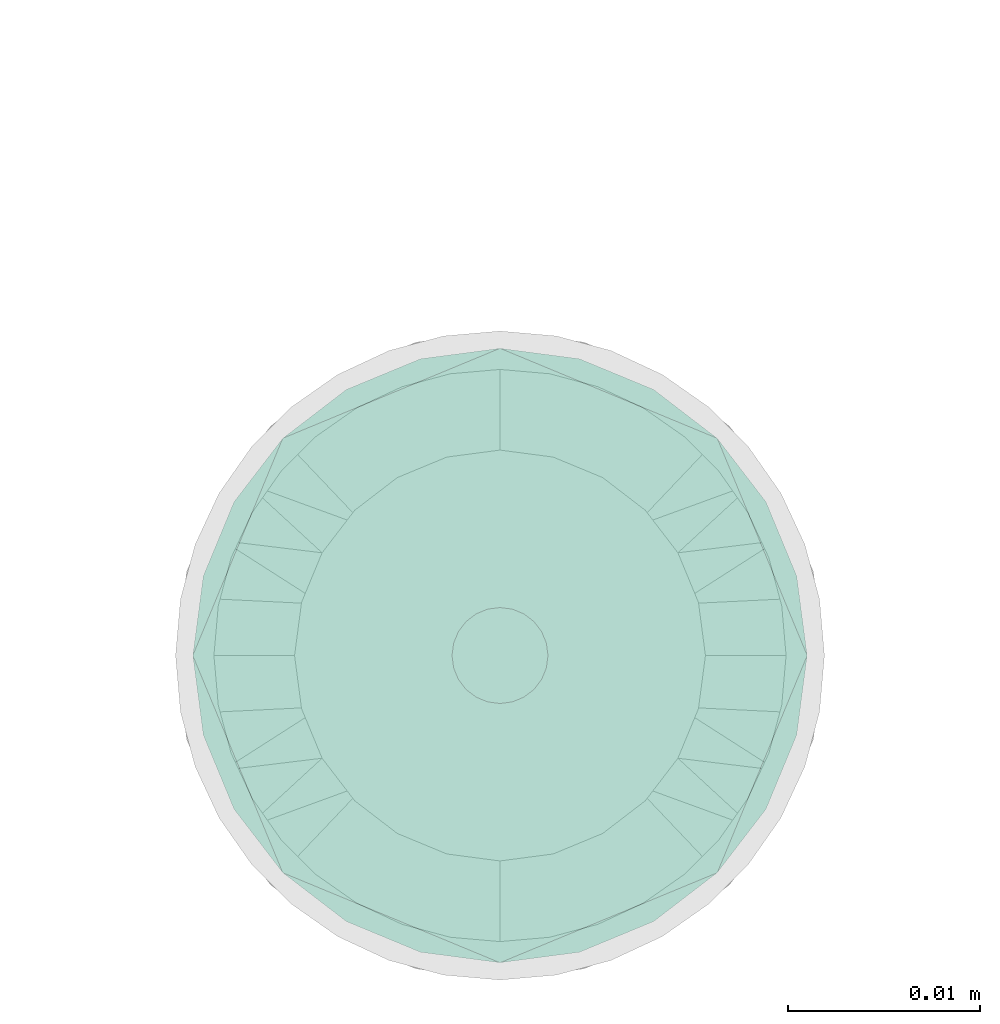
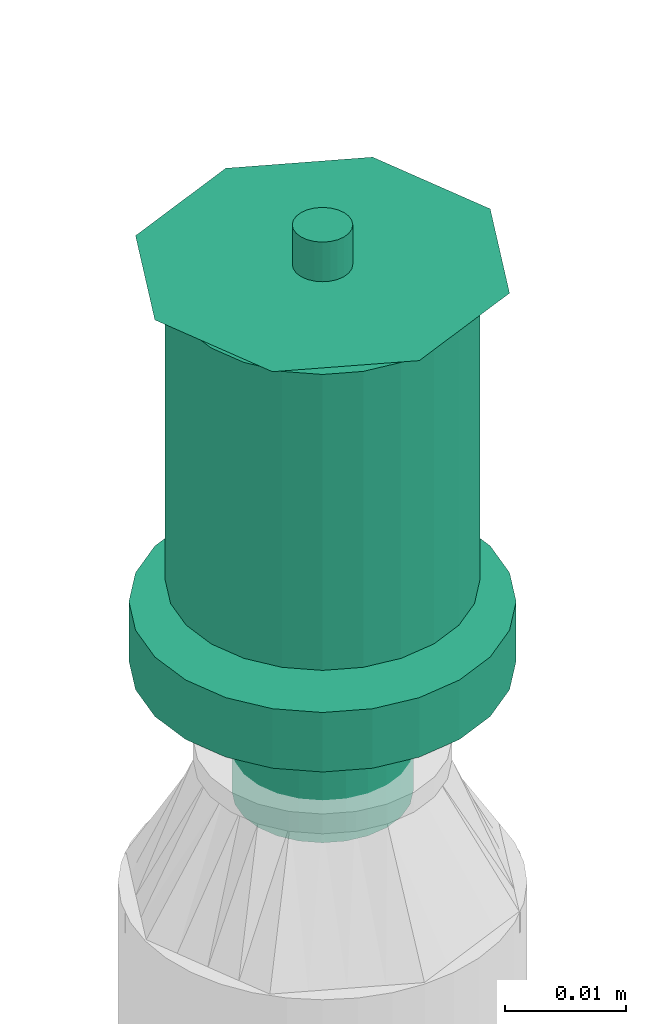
# One storey, part 10 of 44: 1 flow terminal.
"""IFC2X3 building model written with IfcOpenShell, lengths in millimetres."""

from ifc_helpers import new_model, entity, si_unit, converted_unit, derived_unit, direction, frame, origin_with_axes, place, context, subcontext, project, spatial, open_shell, surface_model, source, transform, mapped, type_object, element, save


model = new_model("IFC2X3")

# Units and contexts
model_context = context("Model", 3, precision=0.01, world=frame((0.0, 4.29681676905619e-09, 0.0)), true_north=direction((4.01073788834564e-13, 1.0)))
plan_context = context("Plan", 3, precision=0.01, world=frame((0.0, 4.29681676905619e-09, 0.0)), true_north=direction((4.01073788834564e-13, 1.0)))
body_context = subcontext(model_context, "Body", "Model", "MODEL_VIEW")
ifc_project = project(units=[converted_unit("PLANEANGLEUNIT", "DEGREE", entity("IfcPositiveLengthMeasure", 0.0174532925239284), si_unit("PLANEANGLEUNIT", "RADIAN"), dimensions=[0, 0, 0, 0, 0, 0, 0]), si_unit("AREAUNIT", "SQUARE_METRE"), si_unit("LENGTHUNIT", "METRE", prefix="MILLI"), si_unit("MASSUNIT", "GRAM", prefix="KILO"), si_unit("POWERUNIT", "WATT"), si_unit("PRESSUREUNIT", "PASCAL"), si_unit("FORCEUNIT", "NEWTON", prefix="KILO"), si_unit("ELECTRICVOLTAGEUNIT", "VOLT"), si_unit("ELECTRICCURRENTUNIT", "AMPERE"), si_unit("THERMODYNAMICTEMPERATUREUNIT", "DEGREE_CELSIUS"), si_unit("TIMEUNIT", "SECOND"), si_unit("VOLUMEUNIT", "CUBIC_METRE"), derived_unit("LINEARVELOCITYUNIT", [(si_unit("LENGTHUNIT", "METRE"), 1), (si_unit("TIMEUNIT", "SECOND"), -1)]), derived_unit("VOLUMETRICFLOWRATEUNIT", [(si_unit("VOLUMEUNIT", "CUBIC_METRE"), 1), (si_unit("TIMEUNIT", "SECOND"), -1)]), derived_unit("THERMALTRANSMITTANCEUNIT", [(si_unit("POWERUNIT", "WATT"), 1), (si_unit("THERMODYNAMICTEMPERATUREUNIT", "KELVIN"), -1), (si_unit("AREAUNIT", "SQUARE_METRE"), -1)]), derived_unit("SOUNDPRESSUREUNIT", [(si_unit("PRESSUREUNIT", "PASCAL"), 1)])], contexts=[model_context, plan_context])

# Site, building, storey
site_placement = place(None, frame((0.0, -4.29681676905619e-09, 0.0), z_axis=(0.0, 0.0, 1.0), x_axis=(1.0, 0.0, 0.0)))
site = spatial("IfcSite", under=ifc_project, at=site_placement, CompositionType="ELEMENT")
building_placement = place(site_placement, frame((0.0, 4.29681676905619e-09, 0.0), z_axis=(0.0, 0.0, 1.0), x_axis=(1.0, 0.0, 0.0)))
building = spatial("IfcBuilding", under=site, at=building_placement, Name="mc-building", CompositionType="ELEMENT")
storey_placement = place(building_placement, frame((0.0, 0.0, 207370.0), z_axis=(0.0, 0.0, 1.0), x_axis=(1.0, 0.0, 0.0)))
storey = spatial("IfcBuildingStorey", under=building, at=storey_placement, Name="Nivå E", CompositionType="ELEMENT", Elevation=207370.0)

# Flow terminal
fire_suppression_terminal_type = type_object("IfcFireSuppressionTerminalType", Name="68DGR-STD-STÅENDE", PredefinedType="NOTDEFINED")
shared_shape = source(origin_with_axes(), body_context, "Body", "SurfaceModel", [
    surface_model("IfcShellBasedSurfaceModel", [(3.36465, -12.55704, 51.0), (6.5, -11.25833, 51.0), (9.19239, -9.19239, 51.0), (12.55704, -3.36465, 51.0), (-11.25833, -6.5, 51.0), (11.25833, -6.5, 51.0), (-13.0, 0.0, 51.0), (0.0, -13.0, 51.0), (-6.5, -11.25833, 51.0), (-3.36465, -12.55704, 51.0), (-9.19239, -9.19239, 51.0), (-12.55704, -3.36465, 51.0), (13.0, 0.0, 51.0), (12.55704, 3.36465, 51.0), (11.25833, 6.5, 51.0), (9.19239, 9.19239, 51.0), (6.5, 11.25833, 51.0), (3.36465, 12.55704, 51.0), (0.0, 13.0, 51.0), (-3.36465, 12.55704, 51.0), (-12.55704, 3.36465, 51.0), (-9.19239, 9.19239, 51.0), (-11.25833, 6.5, 51.0), (-6.5, 11.25833, 51.0), (0.0, 13.0, 21.14766), (3.36465, 12.55704, 21.14766), (6.5, 11.25833, 21.14766), (-3.36465, 12.55704, 21.14766), (9.19239, 9.19239, 21.14766), (11.25833, 6.5, 21.14766), (12.55704, 3.36465, 21.14766), (-12.55704, 3.36465, 21.14766), (-11.25833, -6.5, 21.14766), (-9.19239, 9.19239, 21.14766), (-6.5, 11.25833, 21.14766), (-11.25833, 6.5, 21.14766), (-13.0, 0.0, 21.14766), (12.55704, -3.36465, 21.14766), (9.19239, -9.19239, 21.14766), (11.25833, -6.5, 21.14766), (6.5, -11.25833, 21.14766), (3.36465, -12.55704, 21.14766), (-6.5, -11.25833, 21.14766), (-9.19239, -9.19239, 21.14766), (-12.55704, -3.36465, 21.14766), (0.0, -13.0, 21.14766), (-3.36465, -12.55704, 21.14766), (13.0, 0.0, 21.14766), (7.24444, -1.94114, 0.1), (1.94114, -7.24444, 0.1), (3.75, -6.49519, 0.1), (5.3033, -5.3033, 0.1), (-5.3033, -5.3033, 0.1), (6.49519, -3.75, 0.1), (5.3033, 5.3033, 0.1), (0.0, -7.5, 0.1), (-3.75, -6.49519, 0.1), (-1.94114, -7.24444, 0.1), (-7.24444, -1.94114, 0.1), (-6.49519, -3.75, 0.1), (-7.24444, 1.94114, 0.1), (7.5, 0.0, 0.1), (6.49519, 3.75, 0.1), (-6.49519, 3.75, 0.1), (1.94114, 7.24444, 0.1), (0.0, 7.5, 0.1), (3.75, 6.49519, 0.1), (-7.5, 0.0, 0.1), (-5.3033, 5.3033, 0.1), (-1.94114, 7.24444, 0.1), (-3.75, 6.49519, 0.1), (7.24444, 1.94114, 0.1), (1.94114, 7.24444, -0.1), (-6.49519, 3.75, -0.1), (0.0, 7.5, -0.1), (5.3033, 5.3033, -0.1), (3.75, 6.49519, -0.1), (6.49519, 3.75, -0.1), (7.24444, 1.94114, -0.1), (-1.94114, 7.24444, -0.1), (-5.3033, 5.3033, -0.1), (-3.75, 6.49519, -0.1), (-7.24444, 1.94114, -0.1), (-7.24444, -1.94114, -0.1), (-7.5, 0.0, -0.1), (7.5, 0.0, -0.1), (7.24444, -1.94114, -0.1), (-5.3033, -5.3033, -0.1), (1.94114, -7.24444, -0.1), (6.49519, -3.75, -0.1), (5.3033, -5.3033, -0.1), (3.75, -6.49519, -0.1), (-6.49519, -3.75, -0.1), (-3.75, -6.49519, -0.1), (0.0, -7.5, -0.1), (-1.94114, -7.24444, -0.1), (0.0, -2.5, 51.0), (-2.5, 0.0, 51.0), (0.0, 2.5, 51.0), (2.5, 0.0, 51.0), (0.0, -16.0, 53.0), (11.31371, -11.31371, 53.0), (-11.31371, -11.31371, 53.0), (-16.0, 0.0, 53.0), (16.0, 0.0, 53.0), (11.31371, 11.31371, 53.0), (0.0, 16.0, 53.0), (-11.31371, 11.31371, 53.0), (1.25, -2.16506, 57.0), (0.0, -2.5, 57.0), (0.64705, -2.41481, 57.0), (2.41481, -0.64705, 57.0), (1.76777, -1.76777, 57.0), (-2.41481, -0.64705, 57.0), (-2.5, 0.0, 57.0), (2.16506, -1.25, 57.0), (-1.25, -2.16506, 57.0), (-0.64705, -2.41481, 57.0), (-1.76777, -1.76777, 57.0), (-2.16506, -1.25, 57.0), (2.5, 0.0, 57.0), (2.41481, 0.64705, 57.0), (2.16506, 1.25, 57.0), (1.76777, 1.76777, 57.0), (0.64705, 2.41481, 57.0), (1.25, 2.16506, 57.0), (-1.76777, 1.76777, 57.0), (0.0, 2.5, 57.0), (-2.16506, 1.25, 57.0), (-2.41481, 0.64705, 57.0), (-0.64705, 2.41481, 57.0), (-1.25, 2.16506, 57.0), (1.25, 2.16506, 51.0), (1.76777, 1.76777, 51.0), (1.15, 1.99186, 51.0), (0.59528, 2.22163, 51.0), (0.64705, 2.41481, 51.0), (0.0, 2.3, 51.0), (1.62635, 1.62635, 51.0), (2.41481, 0.64705, 51.0), (2.3, 0.0, 51.0), (2.22163, 0.59528, 51.0), (2.16506, 1.25, 51.0), (1.99186, 1.15, 51.0), (-0.59528, 2.22163, 51.0), (-0.64705, 2.41481, 51.0), (-1.15, 1.99186, 51.0), (-1.76777, 1.76777, 51.0), (-1.25, 2.16506, 51.0), (-1.62635, 1.62635, 51.0), (-1.99186, 1.15, 51.0), (-2.16506, 1.25, 51.0), (-2.22163, 0.59528, 51.0), (-2.41481, 0.64705, 51.0), (-2.3, 0.0, 51.0), (2.41481, -0.64705, 51.0), (2.22163, -0.59528, 51.0), (1.99186, -1.15, 51.0), (2.16506, -1.25, 51.0), (1.62635, -1.62635, 51.0), (1.76777, -1.76777, 51.0), (1.25, -2.16506, 51.0), (1.15, -1.99186, 51.0), (0.59528, -2.22163, 51.0), (0.64705, -2.41481, 51.0), (0.0, -2.3, 51.0), (-2.16506, -1.25, 51.0), (-1.99186, -1.15, 51.0), (-1.76777, -1.76777, 51.0), (-1.62635, -1.62635, 51.0), (-2.41481, -0.64705, 51.0), (-2.22163, -0.59528, 51.0), (-0.59528, -2.22163, 51.0), (-0.64705, -2.41481, 51.0), (-1.15, -1.99186, 51.0), (-1.25, -2.16506, 51.0), (1.62635, -1.62635, 56.8), (1.15, -1.99186, 56.8), (0.59528, -2.22163, 56.8), (0.0, -2.3, 56.8), (2.22163, 0.59528, 56.8), (1.99186, -1.15, 56.8), (2.22163, -0.59528, 56.8), (-0.59528, -2.22163, 56.8), (-1.15, -1.99186, 56.8), (-1.62635, -1.62635, 56.8), (-1.99186, -1.15, 56.8), (-2.22163, -0.59528, 56.8), (-1.99186, 1.15, 56.8), (2.3, 0.0, 56.8), (1.62635, 1.62635, 56.8), (1.99186, 1.15, 56.8), (1.15, 1.99186, 56.8), (0.0, 2.3, 56.8), (0.59528, 2.22163, 56.8), (-2.22163, 0.59528, 56.8), (-2.3, 0.0, 56.8), (-1.15, 1.99186, 56.8), (-0.59528, 2.22163, 56.8), (-1.62635, 1.62635, 56.8), (4.1411, -15.45481, 19.0), (8.0, -13.85641, 19.0), (11.31371, -11.31371, 19.0), (-8.0, -13.85641, 19.0), (15.45481, -4.1411, 19.0), (16.0, 0.0, 19.0), (13.85641, -8.0, 19.0), (0.0, -16.0, 19.0), (-4.1411, -15.45481, 19.0), (-13.85641, -8.0, 19.0), (-11.31371, -11.31371, 19.0), (-15.45481, -4.1411, 19.0), (15.45481, 4.1411, 19.0), (13.85641, 8.0, 19.0), (11.31371, 11.31371, 19.0), (-4.1411, 15.45481, 19.0), (8.0, 13.85641, 19.0), (4.1411, 15.45481, 19.0), (0.0, 16.0, 19.0), (-13.85641, 8.0, 19.0), (-15.45481, 4.1411, 19.0), (-16.0, 0.0, 19.0), (-11.31371, 11.31371, 19.0), (-8.0, 13.85641, 19.0), (0.0, 16.0, 13.0), (4.1411, 15.45481, 13.0), (8.0, 13.85641, 13.0), (-4.1411, 15.45481, 13.0), (11.31371, 11.31371, 13.0), (13.85641, 8.0, 13.0), (15.45481, 4.1411, 13.0), (-15.45481, -4.1411, 13.0), (-11.31371, 11.31371, 13.0), (-8.0, 13.85641, 13.0), (-13.85641, 8.0, 13.0), (-15.45481, 4.1411, 13.0), (-16.0, 0.0, 13.0), (4.1411, -15.45481, 13.0), (16.0, 0.0, 13.0), (15.45481, -4.1411, 13.0), (13.85641, -8.0, 13.0), (11.31371, -11.31371, 13.0), (8.0, -13.85641, 13.0), (-8.0, -13.85641, 13.0), (-13.85641, -8.0, 13.0), (-11.31371, -11.31371, 13.0), (0.0, -16.0, 13.0), (-4.1411, -15.45481, 13.0), (7.24444, -1.94114, 13.0), (1.94114, -7.24444, 13.0), (3.75, -6.49519, 13.0), (5.3033, -5.3033, 13.0), (-5.3033, -5.3033, 13.0), (6.49519, -3.75, 13.0), (5.3033, 5.3033, 13.0), (0.0, -7.5, 13.0), (-3.75, -6.49519, 13.0), (-1.94114, -7.24444, 13.0), (-7.24444, -1.94114, 13.0), (-6.49519, -3.75, 13.0), (-7.24444, 1.94114, 13.0), (7.5, 0.0, 13.0), (6.49519, 3.75, 13.0), (-6.49519, 3.75, 13.0), (1.94114, 7.24444, 13.0), (0.0, 7.5, 13.0), (3.75, 6.49519, 13.0), (-7.5, 0.0, 13.0), (-5.3033, 5.3033, 13.0), (-1.94114, 7.24444, 13.0), (-3.75, 6.49519, 13.0), (7.24444, 1.94114, 13.0), (3.75, 6.49519, 0.0), (5.3033, 5.3033, 0.0), (3.65, 6.32199, 0.0), (1.88938, 7.05126, 0.0), (0.0, 7.3, 0.0), (1.94114, 7.24444, 0.0), (0.0, 7.5, 0.0), (5.16188, 5.16188, 0.0), (7.24444, 1.94114, 0.0), (7.3, 0.0, 0.0), (7.05126, 1.88938, 0.0), (7.5, 0.0, 0.0), (6.49519, 3.75, 0.0), (6.32199, 3.65, 0.0), (-1.88938, 7.05126, 0.0), (-1.94114, 7.24444, 0.0), (-3.65, 6.32199, 0.0), (-5.3033, 5.3033, 0.0), (-3.75, 6.49519, 0.0), (-5.16188, 5.16188, 0.0), (-6.32199, 3.65, 0.0), (-6.49519, 3.75, 0.0), (-7.05126, 1.88938, 0.0), (-7.24444, 1.94114, 0.0), (-7.3, 0.0, 0.0), (-7.5, 0.0, 0.0), (7.24444, -1.94114, 0.0), (7.05126, -1.88938, 0.0), (6.32199, -3.65, 0.0), (6.49519, -3.75, 0.0), (5.16188, -5.16188, 0.0), (5.3033, -5.3033, 0.0), (3.75, -6.49519, 0.0), (3.65, -6.32199, 0.0), (1.88938, -7.05126, 0.0), (1.94114, -7.24444, 0.0), (0.0, -7.3, 0.0), (0.0, -7.5, 0.0), (-6.49519, -3.75, 0.0), (-6.32199, -3.65, 0.0), (-5.3033, -5.3033, 0.0), (-5.16188, -5.16188, 0.0), (-7.24444, -1.94114, 0.0), (-7.05126, -1.88938, 0.0), (-1.88938, -7.05126, 0.0), (-1.94114, -7.24444, 0.0), (-3.65, -6.32199, 0.0), (-3.75, -6.49519, 0.0), (1.88938, -7.05126, 12.8), (0.0, -7.3, 12.8), (3.65, -6.32199, 12.8), (5.16188, -5.16188, 12.8), (6.32199, -3.65, 12.8), (7.05126, 1.88938, 12.8), (7.05126, -1.88938, 12.8), (-5.16188, -5.16188, 12.8), (-1.88938, -7.05126, 12.8), (-3.65, -6.32199, 12.8), (-6.32199, -3.65, 12.8), (-7.05126, -1.88938, 12.8), (0.0, 7.3, 12.8), (7.3, 0.0, 12.8), (6.32199, 3.65, 12.8), (5.16188, 5.16188, 12.8), (3.65, 6.32199, 12.8), (1.88938, 7.05126, 12.8), (-6.32199, 3.65, 12.8), (-7.05126, 1.88938, 12.8), (-7.3, 0.0, 12.8), (-3.65, 6.32199, 12.8), (-1.88938, 7.05126, 12.8), (-5.16188, 5.16188, 12.8)], [open_shell([[[0, 1, 2]], [[0, 2, 3]], [[0, 3, 4]], [[3, 2, 5]], [[6, 4, 3]], [[7, 8, 9]], [[7, 0, 8]], [[8, 4, 10]], [[0, 4, 8]], [[4, 6, 11]], [[6, 3, 12]], [[13, 14, 15]], [[6, 13, 15]], [[16, 17, 18]], [[15, 16, 19]], [[18, 19, 16]], [[20, 21, 22]], [[20, 6, 15]], [[21, 19, 23]], [[19, 21, 20]], [[15, 19, 20]], [[13, 6, 12]], [[24, 25, 26]], [[27, 24, 26]], [[28, 29, 30]], [[26, 28, 31]], [[28, 32, 31]], [[27, 33, 34]], [[33, 27, 31]], [[33, 31, 35]], [[27, 26, 31]], [[31, 32, 36]], [[32, 28, 30]], [[32, 30, 37]], [[38, 37, 39]], [[38, 40, 41]], [[38, 41, 37]], [[32, 37, 41]], [[32, 42, 43]], [[44, 36, 32]], [[42, 45, 46]], [[42, 32, 41]], [[45, 42, 41]], [[30, 47, 37]], [[4, 32, 43]], [[8, 42, 46]], [[43, 42, 10]], [[9, 46, 45]], [[36, 11, 6]], [[11, 36, 44]], [[11, 44, 4]], [[44, 32, 4]], [[43, 10, 4]], [[8, 10, 42]], [[46, 9, 8]], [[45, 7, 9]], [[0, 41, 40]], [[38, 1, 40]], [[5, 39, 37]], [[38, 39, 2]], [[3, 37, 47]], [[41, 0, 7]], [[40, 1, 0]], [[38, 2, 1]], [[39, 5, 2]], [[3, 5, 37]], [[47, 12, 3]], [[41, 7, 45]], [[30, 13, 47]], [[29, 14, 30]], [[25, 24, 17]], [[15, 29, 28]], [[30, 14, 13]], [[13, 12, 47]], [[16, 26, 17]], [[16, 15, 28]], [[26, 25, 17]], [[15, 14, 29]], [[28, 26, 16]], [[24, 18, 17]], [[19, 27, 34]], [[33, 23, 34]], [[22, 35, 31]], [[33, 35, 21]], [[20, 31, 36]], [[27, 19, 18]], [[34, 23, 19]], [[33, 21, 23]], [[35, 22, 21]], [[20, 22, 31]], [[36, 6, 20]], [[27, 18, 24]], [[48, 49, 50]], [[48, 50, 51]], [[49, 48, 52]], [[48, 51, 53]], [[54, 52, 48]], [[55, 56, 57]], [[56, 55, 52]], [[52, 58, 59]], [[52, 55, 49]], [[52, 60, 58]], [[54, 48, 61]], [[62, 54, 61]], [[54, 63, 52]], [[64, 65, 54]], [[64, 54, 66]], [[63, 54, 65]], [[63, 60, 52]], [[67, 58, 60]], [[68, 69, 70]], [[69, 68, 63]], [[69, 63, 65]], [[71, 62, 61]], [[72, 73, 74]], [[75, 72, 76]], [[75, 77, 78]], [[72, 75, 73]], [[78, 73, 75]], [[79, 80, 81]], [[80, 79, 73]], [[74, 73, 79]], [[78, 82, 73]], [[82, 83, 84]], [[82, 78, 85]], [[86, 87, 85]], [[88, 86, 89]], [[90, 91, 88]], [[90, 88, 89]], [[87, 86, 88]], [[83, 87, 92]], [[83, 85, 87]], [[93, 94, 95]], [[94, 93, 87]], [[88, 94, 87]], [[85, 83, 82]], [[83, 58, 84]], [[92, 59, 83]], [[56, 87, 93]], [[92, 87, 52]], [[57, 93, 95]], [[83, 59, 58]], [[58, 67, 84]], [[57, 56, 93]], [[52, 87, 56]], [[52, 59, 92]], [[55, 57, 95]], [[95, 94, 55]], [[88, 49, 94]], [[91, 50, 88]], [[53, 90, 89]], [[91, 90, 51]], [[48, 89, 86]], [[91, 51, 50]], [[50, 49, 88]], [[61, 48, 86]], [[53, 89, 48]], [[53, 51, 90]], [[85, 61, 86]], [[94, 49, 55]], [[78, 71, 85]], [[77, 62, 78]], [[66, 75, 76]], [[77, 75, 54]], [[64, 76, 72]], [[78, 62, 71]], [[71, 61, 85]], [[64, 66, 76]], [[54, 75, 66]], [[54, 62, 77]], [[65, 64, 72]], [[72, 74, 65]], [[79, 69, 74]], [[81, 70, 79]], [[63, 80, 73]], [[81, 80, 68]], [[60, 73, 82]], [[81, 68, 70]], [[70, 69, 79]], [[67, 60, 82]], [[63, 73, 60]], [[63, 68, 80]], [[84, 67, 82]], [[74, 69, 65]], [[96, 97, 98]], [[98, 99, 96]], [[100, 101, 102]], [[103, 102, 101]], [[101, 104, 103]], [[104, 105, 106]], [[107, 103, 106]], [[106, 103, 104]], [[99, 98, 105]], [[105, 104, 99]], [[98, 106, 105]], [[98, 107, 106]], [[107, 98, 97]], [[103, 107, 97]], [[97, 96, 102]], [[102, 103, 97]], [[96, 100, 102]], [[96, 101, 100]], [[101, 96, 99]], [[104, 101, 99]], [[108, 109, 110]], [[111, 108, 112]], [[113, 108, 114]], [[111, 112, 115]], [[108, 111, 114]], [[109, 116, 117]], [[116, 109, 118]], [[118, 113, 119]], [[118, 109, 108]], [[108, 113, 118]], [[111, 120, 114]], [[121, 122, 123]], [[114, 121, 123]], [[114, 123, 124]], [[124, 123, 125]], [[126, 124, 127]], [[124, 128, 129]], [[129, 114, 124]], [[126, 130, 131]], [[128, 124, 126]], [[130, 126, 127]], [[121, 114, 120]], [[132, 133, 134]], [[132, 134, 135]], [[136, 135, 137]], [[135, 136, 132]], [[136, 137, 98]], [[134, 133, 138]], [[139, 140, 141]], [[140, 139, 99]], [[139, 141, 142]], [[138, 142, 143]], [[142, 138, 133]], [[143, 142, 141]], [[98, 144, 145]], [[98, 137, 144]], [[145, 144, 146]], [[147, 148, 149]], [[146, 148, 145]], [[149, 148, 146]], [[150, 151, 147]], [[151, 150, 152]], [[150, 147, 149]], [[153, 152, 154]], [[152, 153, 151]], [[153, 154, 97]], [[99, 155, 156]], [[156, 155, 157]], [[157, 158, 159]], [[158, 157, 155]], [[159, 158, 160]], [[160, 161, 162]], [[162, 161, 163]], [[163, 164, 165]], [[164, 163, 161]], [[165, 164, 96]], [[162, 159, 160]], [[166, 167, 168]], [[168, 167, 169]], [[167, 166, 170]], [[97, 171, 170]], [[170, 171, 167]], [[97, 154, 171]], [[172, 96, 173]], [[172, 173, 174]], [[169, 175, 168]], [[175, 169, 174]], [[175, 174, 173]], [[165, 96, 172]], [[156, 140, 99]], [[170, 113, 97]], [[166, 119, 170]], [[116, 168, 175]], [[166, 168, 118]], [[117, 175, 173]], [[170, 119, 113]], [[113, 114, 97]], [[117, 116, 175]], [[118, 168, 116]], [[118, 119, 166]], [[109, 117, 173]], [[173, 96, 109]], [[164, 110, 96]], [[161, 108, 164]], [[115, 160, 158]], [[161, 160, 112]], [[111, 158, 155]], [[161, 112, 108]], [[108, 110, 164]], [[120, 111, 155]], [[115, 158, 111]], [[115, 112, 160]], [[99, 120, 155]], [[96, 110, 109]], [[139, 121, 99]], [[142, 122, 139]], [[125, 133, 132]], [[142, 133, 123]], [[124, 132, 136]], [[139, 122, 121]], [[121, 120, 99]], [[124, 125, 132]], [[123, 133, 125]], [[123, 122, 142]], [[127, 124, 136]], [[136, 98, 127]], [[145, 130, 98]], [[148, 131, 145]], [[128, 147, 151]], [[148, 147, 126]], [[129, 151, 153]], [[148, 126, 131]], [[131, 130, 145]], [[114, 129, 153]], [[128, 151, 129]], [[128, 126, 147]], [[97, 114, 153]], [[98, 130, 127]], [[176, 177, 178]], [[176, 178, 179]], [[180, 176, 179]], [[181, 176, 182]], [[180, 182, 176]], [[183, 184, 179]], [[185, 179, 184]], [[186, 187, 185]], [[185, 187, 188]], [[179, 185, 188]], [[189, 182, 180]], [[190, 191, 180]], [[192, 190, 180]], [[193, 194, 192]], [[180, 193, 192]], [[188, 193, 180]], [[195, 188, 196]], [[196, 188, 187]], [[197, 198, 199]], [[188, 199, 198]], [[188, 198, 193]], [[180, 179, 188]], [[154, 187, 171]], [[171, 186, 167]], [[174, 169, 184]], [[185, 169, 167]], [[172, 174, 183]], [[187, 186, 171]], [[154, 196, 187]], [[174, 184, 183]], [[184, 169, 185]], [[167, 186, 185]], [[172, 183, 179]], [[179, 165, 172]], [[165, 178, 163]], [[163, 177, 162]], [[157, 159, 181]], [[176, 159, 162]], [[156, 157, 182]], [[177, 176, 162]], [[163, 178, 177]], [[156, 182, 189]], [[182, 157, 181]], [[159, 176, 181]], [[156, 189, 140]], [[179, 178, 165]], [[140, 180, 141]], [[141, 191, 143]], [[134, 138, 192]], [[190, 138, 143]], [[135, 134, 194]], [[180, 191, 141]], [[140, 189, 180]], [[134, 192, 194]], [[192, 138, 190]], [[143, 191, 190]], [[135, 194, 193]], [[193, 137, 135]], [[137, 198, 144]], [[144, 197, 146]], [[150, 149, 188]], [[199, 149, 146]], [[152, 150, 195]], [[197, 199, 146]], [[144, 198, 197]], [[152, 195, 196]], [[195, 150, 188]], [[149, 199, 188]], [[152, 196, 154]], [[193, 198, 137]], [[200, 201, 202]], [[203, 200, 202]], [[204, 205, 202]], [[204, 202, 206]], [[203, 202, 205]], [[207, 203, 208]], [[207, 200, 203]], [[203, 209, 210]], [[209, 203, 211]], [[205, 211, 203]], [[205, 212, 211]], [[212, 213, 214]], [[215, 212, 214]], [[216, 217, 218]], [[214, 216, 215]], [[218, 215, 216]], [[211, 219, 220]], [[221, 211, 220]], [[222, 215, 223]], [[215, 222, 219]], [[219, 211, 215]], [[211, 212, 215]], [[224, 225, 226]], [[227, 224, 226]], [[228, 229, 230]], [[227, 226, 228]], [[227, 228, 231]], [[227, 232, 233]], [[232, 227, 234]], [[234, 231, 235]], [[231, 234, 227]], [[235, 231, 236]], [[228, 230, 231]], [[237, 238, 239]], [[237, 239, 240]], [[241, 242, 237]], [[241, 237, 240]], [[238, 237, 243]], [[244, 243, 245]], [[243, 244, 231]], [[243, 246, 247]], [[243, 231, 238]], [[237, 246, 243]], [[238, 231, 230]], [[231, 211, 236]], [[244, 209, 231]], [[203, 245, 243]], [[244, 245, 210]], [[208, 243, 247]], [[231, 209, 211]], [[211, 221, 236]], [[208, 203, 243]], [[210, 245, 203]], [[210, 209, 244]], [[207, 208, 247]], [[247, 246, 207]], [[237, 200, 246]], [[242, 201, 237]], [[206, 241, 240]], [[242, 241, 202]], [[204, 240, 239]], [[242, 202, 201]], [[201, 200, 237]], [[205, 204, 239]], [[206, 240, 204]], [[206, 202, 241]], [[238, 205, 239]], [[246, 200, 207]], [[230, 212, 238]], [[229, 213, 230]], [[216, 228, 226]], [[229, 228, 214]], [[217, 226, 225]], [[230, 213, 212]], [[212, 205, 238]], [[217, 216, 226]], [[214, 228, 216]], [[214, 213, 229]], [[218, 217, 225]], [[225, 224, 218]], [[227, 215, 224]], [[233, 223, 227]], [[219, 232, 234]], [[233, 232, 222]], [[220, 234, 235]], [[233, 222, 223]], [[223, 215, 227]], [[221, 220, 235]], [[219, 234, 220]], [[219, 222, 232]], [[236, 221, 235]], [[224, 215, 218]], [[248, 249, 250]], [[248, 250, 251]], [[249, 248, 252]], [[248, 251, 253]], [[254, 252, 248]], [[255, 256, 257]], [[256, 255, 252]], [[252, 258, 259]], [[252, 255, 249]], [[252, 260, 258]], [[254, 248, 261]], [[262, 254, 261]], [[254, 263, 252]], [[264, 265, 254]], [[264, 254, 266]], [[263, 254, 265]], [[263, 260, 252]], [[267, 258, 260]], [[268, 269, 270]], [[269, 268, 263]], [[269, 263, 265]], [[271, 262, 261]], [[272, 273, 274]], [[272, 274, 275]], [[276, 277, 275]], [[277, 276, 278]], [[275, 277, 272]], [[274, 273, 279]], [[280, 281, 282]], [[281, 280, 283]], [[280, 282, 284]], [[279, 284, 285]], [[284, 279, 273]], [[285, 284, 282]], [[278, 286, 287]], [[287, 286, 288]], [[289, 290, 291]], [[288, 290, 287]], [[288, 291, 290]], [[278, 276, 286]], [[292, 293, 289]], [[293, 292, 294]], [[292, 289, 291]], [[295, 294, 296]], [[294, 295, 293]], [[295, 296, 297]], [[283, 298, 299]], [[299, 298, 300]], [[300, 301, 302]], [[301, 300, 298]], [[302, 301, 303]], [[303, 304, 305]], [[305, 304, 306]], [[306, 307, 308]], [[307, 306, 304]], [[308, 307, 309]], [[305, 302, 303]], [[310, 311, 312]], [[312, 311, 313]], [[311, 310, 314]], [[297, 315, 314]], [[314, 315, 311]], [[297, 296, 315]], [[316, 309, 317]], [[316, 317, 318]], [[313, 319, 312]], [[313, 318, 319]], [[319, 318, 317]], [[308, 309, 316]], [[299, 281, 283]], [[314, 258, 297]], [[310, 259, 314]], [[256, 312, 319]], [[310, 312, 252]], [[257, 319, 317]], [[314, 259, 258]], [[258, 267, 297]], [[257, 256, 319]], [[252, 312, 256]], [[252, 259, 310]], [[255, 257, 317]], [[317, 309, 255]], [[307, 249, 309]], [[304, 250, 307]], [[253, 303, 301]], [[304, 303, 251]], [[248, 301, 298]], [[304, 251, 250]], [[250, 249, 307]], [[261, 248, 298]], [[253, 301, 248]], [[253, 251, 303]], [[283, 261, 298]], [[309, 249, 255]], [[280, 271, 283]], [[284, 262, 280]], [[266, 273, 272]], [[284, 273, 254]], [[264, 272, 277]], [[280, 262, 271]], [[271, 261, 283]], [[264, 266, 272]], [[254, 273, 266]], [[254, 262, 284]], [[265, 264, 277]], [[277, 278, 265]], [[287, 269, 278]], [[290, 270, 287]], [[263, 289, 293]], [[290, 289, 268]], [[260, 293, 295]], [[290, 268, 270]], [[270, 269, 287]], [[267, 260, 295]], [[263, 293, 260]], [[263, 268, 289]], [[297, 267, 295]], [[278, 269, 265]], [[320, 321, 322]], [[323, 322, 324]], [[325, 326, 322]], [[324, 322, 326]], [[322, 327, 325]], [[328, 329, 321]], [[327, 321, 329]], [[330, 331, 327]], [[322, 321, 327]], [[331, 332, 327]], [[326, 325, 333]], [[334, 325, 332]], [[335, 334, 336]], [[332, 337, 336]], [[334, 332, 336]], [[331, 338, 332]], [[339, 338, 340]], [[340, 338, 331]], [[341, 342, 343]], [[332, 338, 343]], [[332, 343, 342]], [[332, 325, 327]], [[296, 331, 315]], [[315, 330, 311]], [[318, 313, 329]], [[327, 313, 311]], [[316, 318, 328]], [[331, 330, 315]], [[296, 340, 331]], [[318, 329, 328]], [[329, 313, 327]], [[311, 330, 327]], [[316, 328, 321]], [[321, 308, 316]], [[308, 320, 306]], [[306, 322, 305]], [[300, 302, 324]], [[323, 302, 305]], [[299, 300, 326]], [[322, 323, 305]], [[306, 320, 322]], [[299, 326, 333]], [[326, 300, 324]], [[302, 323, 324]], [[299, 333, 281]], [[321, 320, 308]], [[281, 325, 282]], [[282, 334, 285]], [[274, 279, 336]], [[335, 279, 285]], [[275, 274, 337]], [[325, 334, 282]], [[281, 333, 325]], [[274, 336, 337]], [[336, 279, 335]], [[285, 334, 335]], [[275, 337, 332]], [[332, 276, 275]], [[276, 342, 286]], [[286, 341, 288]], [[292, 291, 338]], [[343, 291, 288]], [[294, 292, 339]], [[341, 343, 288]], [[286, 342, 341]], [[294, 339, 340]], [[339, 292, 338]], [[291, 343, 338]], [[294, 340, 296]], [[332, 342, 276]]])]),
])
flow_terminal_placement = place(storey_placement, frame((533500.0, 441009.83177, 3036.95754999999), z_axis=(0.0, 0.0, 1.0), x_axis=(1.0, 0.0, 0.0)))
element("IfcFlowTerminal", 1, at=flow_terminal_placement, inside=storey, type_object=fire_suppression_terminal_type, Name="68DGR-STD-STÅENDE", context=body_context, shape_type="MappedRepresentation", body=[
    mapped(shared_shape, transform((0.0, 0.0, 0.0), scale=1.0)),
])

save(model, "model.ifc")
